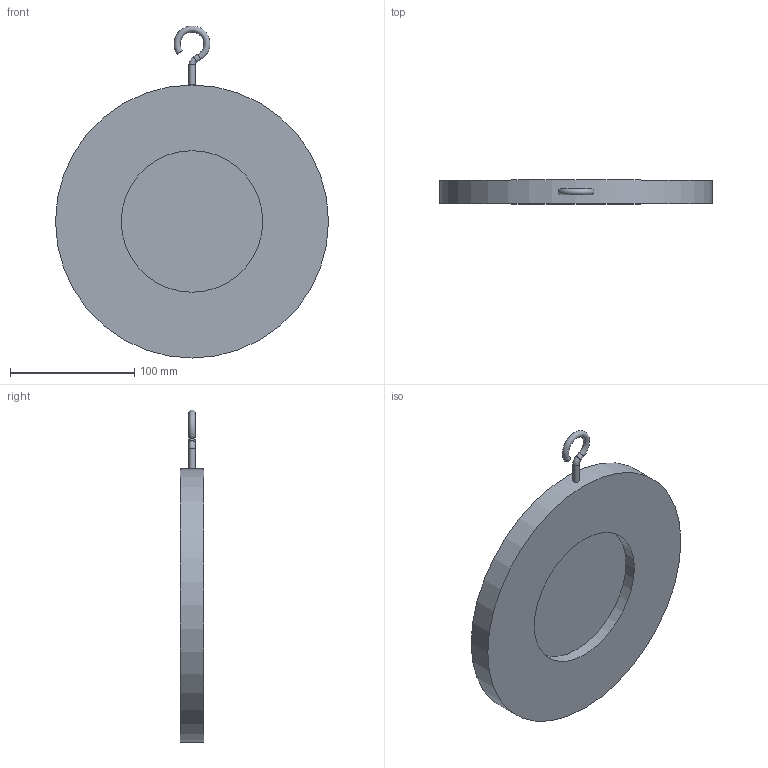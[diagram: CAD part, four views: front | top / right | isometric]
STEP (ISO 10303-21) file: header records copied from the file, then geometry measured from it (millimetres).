
FILE_DESCRIPTION(('STEP AP203'), '1');
FILE_NAME('孰囡囗 钺疣蝽 钿眍耱忸瘅囹 戾骠豚眦邂 008C.Y DN150', '', ('UNSPECIFIED'), ('UNSPECIFIED'), 'ASCON STEP Converter 1.6', 'ASCON Math Kernel', '');
FILE_SCHEMA(('CONFIG_CONTROL_DESIGN'));
Length unit declared in the file: millimetre
Bounding box: 220 x 19 x 267.49 mm (x, y, z)
Volume: 550377.2 mm3; surface area: 99959.2 mm2
Topology: 1 solids, 1 shells, 32 faces, 72 edges, 47 vertices
Faces by surface type: plane 17, cylinder 12, torus 2, cone 1
Full cylindrical faces by diameter (mm): 5 x2, 114 x1, 220 x1
Entity records: 1421 total; most frequent: CARTESIAN_POINT 422, DIRECTION 152, ORIENTED_EDGE 130, EDGE_CURVE 65, AXIS2_PLACEMENT_3D 59, VERTEX_POINT 47, EDGE_LOOP 44, LINE 34
